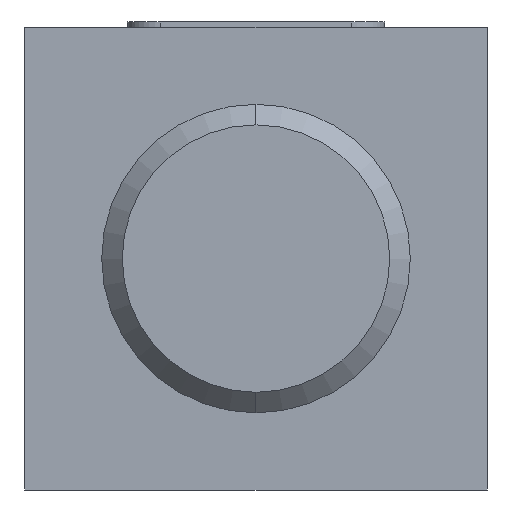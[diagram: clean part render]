
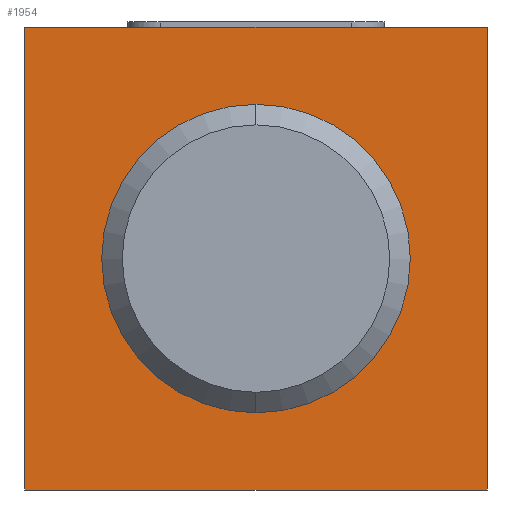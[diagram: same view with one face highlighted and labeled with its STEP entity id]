
A CAD part, left-side view. The second image highlights one B-rep face of the part: STEP entity #1954.
In plain terms, the highlighted planar face has unit normal (-1, 0, 0).
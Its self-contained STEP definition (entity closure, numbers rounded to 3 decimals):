
#61=DIRECTION('',(0.,-1.,0.));
#62=VECTOR('',#61,45.);
#63=CARTESIAN_POINT('',(-15.5,45.,-22.5));
#64=LINE('',#63,#62);
#68=DIRECTION('',(0.,0.,1.));
#69=VECTOR('',#68,45.);
#70=CARTESIAN_POINT('',(-15.5,0.,-22.5));
#71=LINE('',#70,#69);
#219=DIRECTION('',(0.,0.,1.));
#220=VECTOR('',#219,45.);
#221=CARTESIAN_POINT('',(-15.5,45.,-22.5));
#222=LINE('',#221,#220);
#226=CARTESIAN_POINT('',(-15.5,22.5,0.));
#227=DIRECTION('',(1.,0.,0.));
#228=DIRECTION('',(0.,-1.,0.));
#229=AXIS2_PLACEMENT_3D('',#226,#227,#228);
#234=CARTESIAN_POINT('',(-15.5,22.5,0.));
#235=DIRECTION('',(1.,0.,0.));
#236=DIRECTION('',(0.,1.,0.));
#237=AXIS2_PLACEMENT_3D('',#234,#235,#236);
#423=DIRECTION('',(0.,-1.,0.));
#424=VECTOR('',#423,45.);
#425=CARTESIAN_POINT('',(-15.5,45.,22.5));
#426=LINE('',#425,#424);
#1602=CARTESIAN_POINT('',(-15.5,0.,-22.5));
#1604=VERTEX_POINT('',#1602);
#1608=CARTESIAN_POINT('',(-15.5,45.,-22.5));
#1609=VERTEX_POINT('',#1608);
#1610=CARTESIAN_POINT('',(-15.5,0.,22.5));
#1612=VERTEX_POINT('',#1610);
#1616=CARTESIAN_POINT('',(-15.5,45.,22.5));
#1617=VERTEX_POINT('',#1616);
#1744=CARTESIAN_POINT('',(-15.5,7.5,0.));
#1745=VERTEX_POINT('',#1744);
#1746=CARTESIAN_POINT('',(-15.5,37.5,0.));
#1747=VERTEX_POINT('',#1746);
#1935=CARTESIAN_POINT('',(-15.5,45.,-22.5));
#1936=DIRECTION('',(-1.,0.,0.));
#1937=DIRECTION('',(0.,-1.,0.));
#1938=AXIS2_PLACEMENT_3D('',#1935,#1936,#1937);
#1939=PLANE('',#1938);
#1940=ORIENTED_EDGE('',*,*,#1861,.F.);
#1942=ORIENTED_EDGE('',*,*,#1941,.T.);
#1944=ORIENTED_EDGE('',*,*,#1943,.T.);
#1945=ORIENTED_EDGE('',*,*,#1872,.F.);
#1946=EDGE_LOOP('',(#1940,#1942,#1944,#1945));
#1947=FACE_OUTER_BOUND('',#1946,.F.);
#1949=ORIENTED_EDGE('',*,*,#1948,.F.);
#1951=ORIENTED_EDGE('',*,*,#1950,.F.);
#1952=EDGE_LOOP('',(#1949,#1951));
#1953=FACE_BOUND('',#1952,.F.);
#230=CIRCLE('',#229,15.);
#238=CIRCLE('',#237,15.);
#1861=EDGE_CURVE('',#1609,#1604,#64,.T.);
#1872=EDGE_CURVE('',#1604,#1612,#71,.T.);
#1941=EDGE_CURVE('',#1609,#1617,#222,.T.);
#1943=EDGE_CURVE('',#1617,#1612,#426,.T.);
#1948=EDGE_CURVE('',#1745,#1747,#230,.T.);
#1950=EDGE_CURVE('',#1747,#1745,#238,.T.);
#1954=ADVANCED_FACE('',(#1947,#1953),#1939,.T.);
